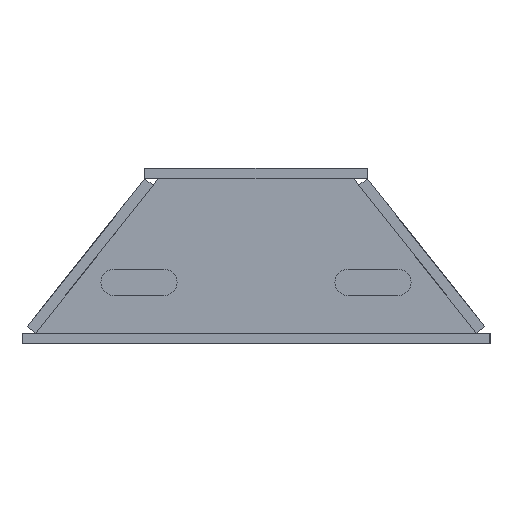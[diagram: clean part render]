
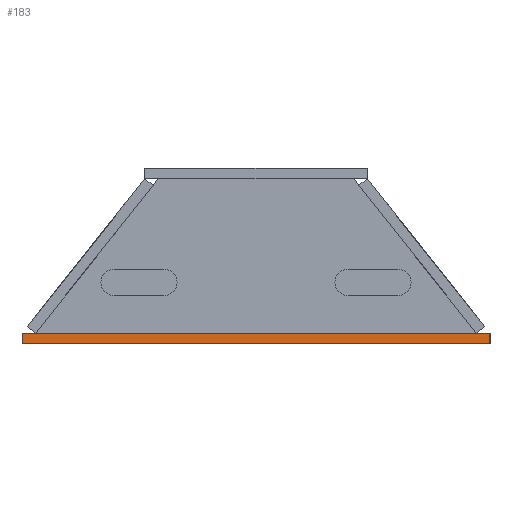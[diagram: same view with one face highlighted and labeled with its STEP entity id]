
A CAD part, left-side view. The second image highlights one B-rep face of the part: STEP entity #183.
In plain terms, the highlighted planar face has unit normal (-1, 0, 0).
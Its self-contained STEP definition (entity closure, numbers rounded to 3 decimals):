
#67 = EDGE_CURVE('',#68,#70,#72,.T.);
#68 = VERTEX_POINT('',#69);
#69 = CARTESIAN_POINT('',(-600.,-400.,0.));
#70 = VERTEX_POINT('',#71);
#71 = CARTESIAN_POINT('',(-600.,-400.,18.));
#72 = SURFACE_CURVE('',#73,(#77,#89),.PCURVE_S1.);
#73 = LINE('',#74,#75);
#74 = CARTESIAN_POINT('',(-600.,-400.,0.));
#75 = VECTOR('',#76,1.);
#76 = DIRECTION('',(0.,0.,1.));
#77 = PCURVE('',#78,#83);
#78 = PLANE('',#79);
#79 = AXIS2_PLACEMENT_3D('',#80,#81,#82);
#80 = CARTESIAN_POINT('',(-600.,-400.,0.));
#81 = DIRECTION('',(0.,1.,0.));
#82 = DIRECTION('',(1.,0.,0.));
#83 = DEFINITIONAL_REPRESENTATION('',(#84),#88);
#84 = LINE('',#85,#86);
#85 = CARTESIAN_POINT('',(0.,0.));
#86 = VECTOR('',#87,1.);
#87 = DIRECTION('',(0.,-1.));
#88 = ( GEOMETRIC_REPRESENTATION_CONTEXT(2) 
PARAMETRIC_REPRESENTATION_CONTEXT() REPRESENTATION_CONTEXT('2D SPACE',''
  ) );
#89 = PCURVE('',#90,#95);
#90 = PLANE('',#91);
#91 = AXIS2_PLACEMENT_3D('',#92,#93,#94);
#92 = CARTESIAN_POINT('',(-600.,400.,0.));
#93 = DIRECTION('',(1.,0.,-0.));
#94 = DIRECTION('',(0.,-1.,0.));
#95 = DEFINITIONAL_REPRESENTATION('',(#96),#100);
#96 = LINE('',#97,#98);
#97 = CARTESIAN_POINT('',(800.,0.));
#98 = VECTOR('',#99,1.);
#99 = DIRECTION('',(0.,-1.));
#100 = ( GEOMETRIC_REPRESENTATION_CONTEXT(2) 
PARAMETRIC_REPRESENTATION_CONTEXT() REPRESENTATION_CONTEXT('2D SPACE',''
  ) );
#118 = PLANE('',#119);
#119 = AXIS2_PLACEMENT_3D('',#120,#121,#122);
#120 = CARTESIAN_POINT('',(0.,0.,18.));
#121 = DIRECTION('',(0.,0.,1.));
#122 = DIRECTION('',(1.,0.,-0.));
#172 = PLANE('',#173);
#173 = AXIS2_PLACEMENT_3D('',#174,#175,#176);
#174 = CARTESIAN_POINT('',(0.,0.,0.));
#175 = DIRECTION('',(0.,0.,1.));
#176 = DIRECTION('',(1.,0.,-0.));
#183 = ADVANCED_FACE('',(#184),#90,.F.);
#184 = FACE_BOUND('',#185,.F.);
#185 = EDGE_LOOP('',(#186,#216,#237,#238));
#186 = ORIENTED_EDGE('',*,*,#187,.T.);
#187 = EDGE_CURVE('',#188,#190,#192,.T.);
#188 = VERTEX_POINT('',#189);
#189 = CARTESIAN_POINT('',(-600.,400.,0.));
#190 = VERTEX_POINT('',#191);
#191 = CARTESIAN_POINT('',(-600.,400.,18.));
#192 = SURFACE_CURVE('',#193,(#197,#204),.PCURVE_S1.);
#193 = LINE('',#194,#195);
#194 = CARTESIAN_POINT('',(-600.,400.,0.));
#195 = VECTOR('',#196,1.);
#196 = DIRECTION('',(0.,0.,1.));
#197 = PCURVE('',#90,#198);
#198 = DEFINITIONAL_REPRESENTATION('',(#199),#203);
#199 = LINE('',#200,#201);
#200 = CARTESIAN_POINT('',(0.,0.));
#201 = VECTOR('',#202,1.);
#202 = DIRECTION('',(0.,-1.));
#203 = ( GEOMETRIC_REPRESENTATION_CONTEXT(2) 
PARAMETRIC_REPRESENTATION_CONTEXT() REPRESENTATION_CONTEXT('2D SPACE',''
  ) );
#204 = PCURVE('',#205,#210);
#205 = PLANE('',#206);
#206 = AXIS2_PLACEMENT_3D('',#207,#208,#209);
#207 = CARTESIAN_POINT('',(600.,400.,0.));
#208 = DIRECTION('',(0.,-1.,0.));
#209 = DIRECTION('',(-1.,0.,0.));
#210 = DEFINITIONAL_REPRESENTATION('',(#211),#215);
#211 = LINE('',#212,#213);
#212 = CARTESIAN_POINT('',(1200.,0.));
#213 = VECTOR('',#214,1.);
#214 = DIRECTION('',(0.,-1.));
#215 = ( GEOMETRIC_REPRESENTATION_CONTEXT(2) 
PARAMETRIC_REPRESENTATION_CONTEXT() REPRESENTATION_CONTEXT('2D SPACE',''
  ) );
#216 = ORIENTED_EDGE('',*,*,#217,.T.);
#217 = EDGE_CURVE('',#190,#70,#218,.T.);
#218 = SURFACE_CURVE('',#219,(#223,#230),.PCURVE_S1.);
#219 = LINE('',#220,#221);
#220 = CARTESIAN_POINT('',(-600.,400.,18.));
#221 = VECTOR('',#222,1.);
#222 = DIRECTION('',(0.,-1.,0.));
#223 = PCURVE('',#90,#224);
#224 = DEFINITIONAL_REPRESENTATION('',(#225),#229);
#225 = LINE('',#226,#227);
#226 = CARTESIAN_POINT('',(0.,-18.));
#227 = VECTOR('',#228,1.);
#228 = DIRECTION('',(1.,0.));
#229 = ( GEOMETRIC_REPRESENTATION_CONTEXT(2) 
PARAMETRIC_REPRESENTATION_CONTEXT() REPRESENTATION_CONTEXT('2D SPACE',''
  ) );
#230 = PCURVE('',#118,#231);
#231 = DEFINITIONAL_REPRESENTATION('',(#232),#236);
#232 = LINE('',#233,#234);
#233 = CARTESIAN_POINT('',(-600.,400.));
#234 = VECTOR('',#235,1.);
#235 = DIRECTION('',(0.,-1.));
#236 = ( GEOMETRIC_REPRESENTATION_CONTEXT(2) 
PARAMETRIC_REPRESENTATION_CONTEXT() REPRESENTATION_CONTEXT('2D SPACE',''
  ) );
#237 = ORIENTED_EDGE('',*,*,#67,.F.);
#238 = ORIENTED_EDGE('',*,*,#239,.F.);
#239 = EDGE_CURVE('',#188,#68,#240,.T.);
#240 = SURFACE_CURVE('',#241,(#245,#252),.PCURVE_S1.);
#241 = LINE('',#242,#243);
#242 = CARTESIAN_POINT('',(-600.,400.,0.));
#243 = VECTOR('',#244,1.);
#244 = DIRECTION('',(0.,-1.,0.));
#245 = PCURVE('',#90,#246);
#246 = DEFINITIONAL_REPRESENTATION('',(#247),#251);
#247 = LINE('',#248,#249);
#248 = CARTESIAN_POINT('',(0.,0.));
#249 = VECTOR('',#250,1.);
#250 = DIRECTION('',(1.,0.));
#251 = ( GEOMETRIC_REPRESENTATION_CONTEXT(2) 
PARAMETRIC_REPRESENTATION_CONTEXT() REPRESENTATION_CONTEXT('2D SPACE',''
  ) );
#252 = PCURVE('',#172,#253);
#253 = DEFINITIONAL_REPRESENTATION('',(#254),#258);
#254 = LINE('',#255,#256);
#255 = CARTESIAN_POINT('',(-600.,400.));
#256 = VECTOR('',#257,1.);
#257 = DIRECTION('',(0.,-1.));
#258 = ( GEOMETRIC_REPRESENTATION_CONTEXT(2) 
PARAMETRIC_REPRESENTATION_CONTEXT() REPRESENTATION_CONTEXT('2D SPACE',''
  ) );
